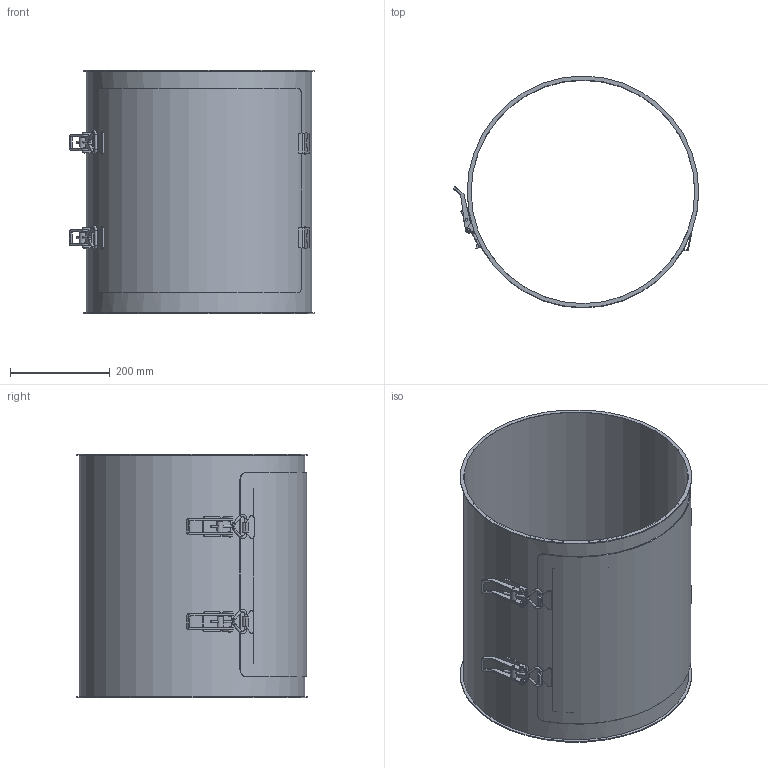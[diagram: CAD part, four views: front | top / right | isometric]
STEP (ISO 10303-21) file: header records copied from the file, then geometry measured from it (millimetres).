
FILE_DESCRIPTION((''),'2;1');
FILE_NAME('U:\Wolfgang\Marcel-3D\fertig\Kapitel 4\4521142.stp','2011-04-21T08:23:45',('TK1'),(''),'Autodesk Inventor 2010','Autodesk Inventor 2010','');
FILE_SCHEMA(('AUTOMOTIVE_DESIGN { 1 0 10303 214 1 1 1 1 }'));
Length unit declared in the file: millimetre
Products named in the file (14): 4521142; 4521142-Rohr; 4521142-verschluss; Verschluss ab 35-1; Verschluss ab 35-2; Verschluss ab 35-3; Verschluss ab 35-4; Verschluss ab 35-5; Gelenk45; Deckel45; 4521142 Halterung2; 4521142-Deckel; Verschluss45; 4521142 Halterung3
Assembly tree (19 placements, depth 3):
  4521142
    4521142-Rohr
    4521142-verschluss  x2
      Verschluss ab 35-1
      Verschluss ab 35-2
      Verschluss ab 35-3
      Verschluss ab 35-4
      Verschluss ab 35-5
    Gelenk45  x2
    Deckel45
      4521142 Halterung2  x2
      4521142-Deckel
      Verschluss45  x2
    4521142 Halterung3  x2
Bounding box: 491.87 x 464 x 488 mm (x, y, z)
Volume: 1585757.5 mm3; surface area: 1586449.3 mm2
Topology: 22 solids, 22 shells, 334 faces, 815 edges, 535 vertices
Faces by surface type: plane 157, cylinder 138, bspline 19, sphere 12, torus 8
Full cylindrical faces by diameter (mm): 4.917 x2, 5 x32, 6 x8, 12 x2, 448 x1, 452 x1, 464 x2
Entity records: 5917 total; most frequent: CARTESIAN_POINT 1336, DIRECTION 934, ORIENTED_EDGE 796, EDGE_CURVE 398, AXIS2_PLACEMENT_3D 363, VERTEX_POINT 279, EDGE_LOOP 241, VECTOR 208
